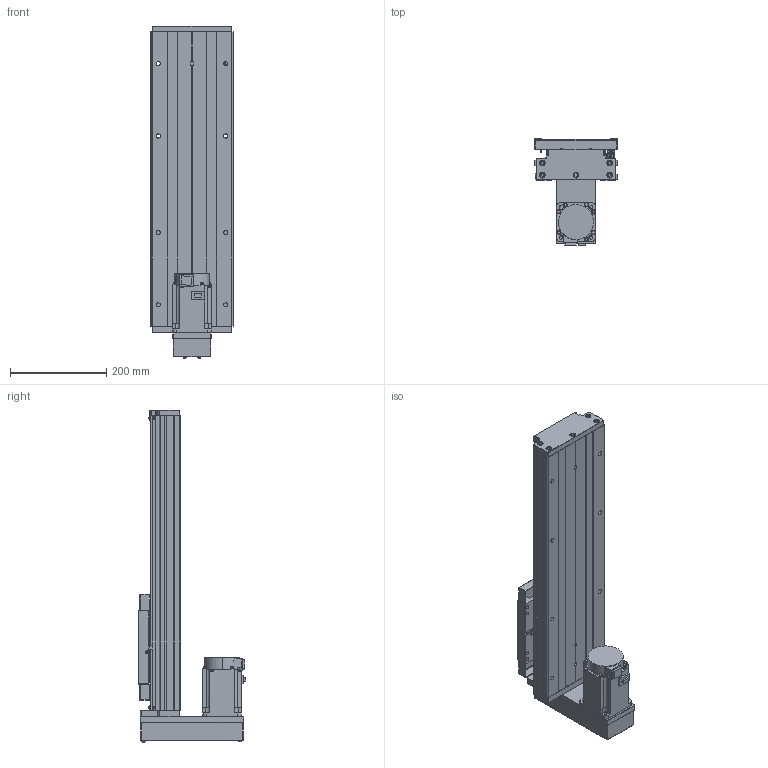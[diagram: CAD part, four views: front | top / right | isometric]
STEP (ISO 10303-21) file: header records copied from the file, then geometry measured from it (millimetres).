
FILE_DESCRIPTION (( 'STEP AP203' ), '1' );
FILE_NAME ('GTH17-350-BM-M75-C4.step', '2023-06-30T12:39:21', ( '微软用户' ), ( '微软中国' ), 'SwSTEP 2.0', 'SolidWorks 2020', '' );
FILE_SCHEMA (( 'CONFIG_CONTROL_DESIGN' ));
Length unit declared in the file: millimetre
Products named in the file (19): GTH17-004; GBT77-2000 M3×3; GTH17-015-2_CTHA86-015-2; GTH17-005; GBT 70.1-M6¡Á20_M6¡Á20; GTH17-033; GB1155-6X6; GTH17-031; GTH17-350-BM-M75-C4; CTHA60-017; GBT 70.2-M3¡Á5_M3¡Á6; EE_SX911P_R; す晦芛蹟隊 M3℅5; GTH17-001_350; CTHA60-016; HG-KN73J-S100; GTH17-002_GTH17-002; GBT 70.1-M3℅5; GBT 70.2-M4¡Á45_M4¡Á35
Assembly tree (58 placements, depth 2):
  GTH17-350-BM-M75-C4
    GTH17-001_350
    GTH17-002_GTH17-002
    GTH17-004
    GTH17-005
    GB1155-6X6  x2
    CTHA60-017  x3
    EE_SX911P_R  x3
    CTHA60-016  x2
    GBT 70.1-M3℅5  x6
    GBT77-2000 M3×3  x6
    GBT 70.1-M6¡Á20_M6¡Á20  x10
    GTH17-031
    GBT 70.2-M3¡Á5_M3¡Á6  x8
    す晦芛蹟隊 M3℅5  x6
    HG-KN73J-S100
    GBT 70.2-M4¡Á45_M4¡Á35  x4
    GTH17-015-2_CTHA86-015-2
    GTH17-033
Bounding box: 171 x 222.3 x 688.2 mm (x, y, z)
Volume: 6122364.7 mm3; surface area: 934195 mm2
Topology: 61 solids, 61 shells, 2429 faces, 5797 edges, 3587 vertices
Faces by surface type: plane 1306, cylinder 650, cone 297, torus 124, sphere 32, bspline 20
Entity records: 44122 total; most frequent: CARTESIAN_POINT 10266, DIRECTION 6361, ORIENTED_EDGE 6306, EDGE_CURVE 3153, AXIS2_PLACEMENT_3D 2160, VECTOR 2041, LINE 2041, VERTEX_POINT 1999
